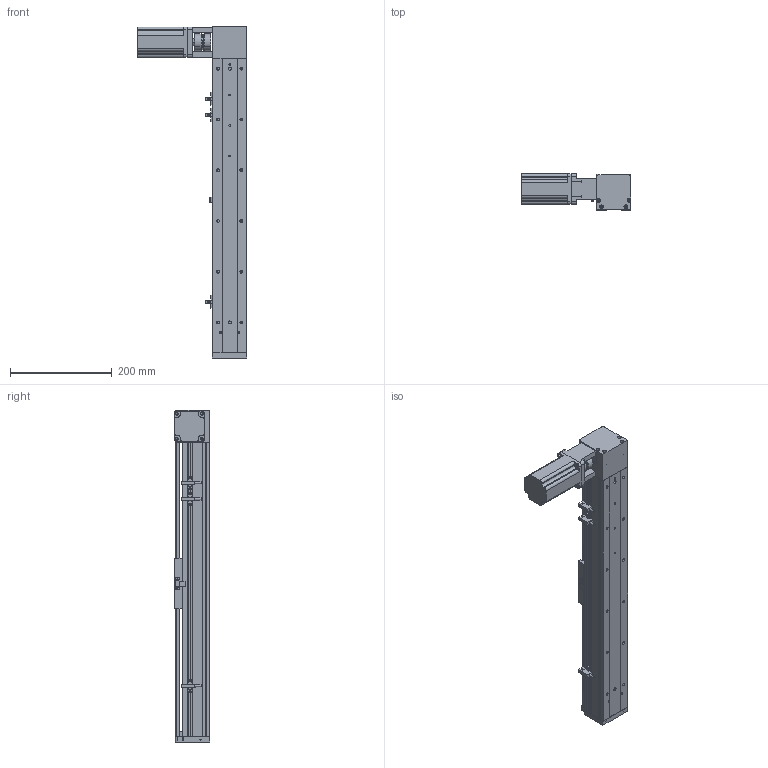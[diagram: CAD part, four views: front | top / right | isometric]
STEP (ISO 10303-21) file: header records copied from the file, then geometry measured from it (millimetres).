
FILE_DESCRIPTION (( 'STEP AP203' ), '1' );
FILE_NAME ('ML68-S400-BL.STEP', '2016-06-01T03:05:58', ( '微软用户' ), ( '微软中国' ), 'SwSTEP 2.0', 'SolidWorks 2014', '' );
FILE_SCHEMA (( 'CONFIG_CONTROL_DESIGN' ));
Length unit declared in the file: millimetre
Products named in the file (12): 換覜ん; ML68-S400-BL; 三协电机MH201N2_預設; 联轴器（CS34X32-8X14）_預設; ML68-BL傷啣; MS68-TS0204鎮湛嘐隅釱_蕼偞; 60換覜結え; ML68-奻裔^ML68-S400-BL; ML68-菁釱^ML68-S400-BL; ML68雄赽釱; ML68傷啣; ML68滅鳥啣盓傅輸
Assembly tree (13 placements, depth 2):
  ML68-S400-BL
    ML68-BL傷啣
    60換覜結え
    ML68-菁釱^ML68-S400-BL
    ML68傷啣
    換覜ん  x3
    三协电机MH201N2_預設
    联轴器（CS34X32-8X14）_預設
    MS68-TS0204鎮湛嘐隅釱_蕼偞
    ML68-奻裔^ML68-S400-BL
    ML68雄赽釱
    ML68滅鳥啣盓傅輸
Bounding box: 216.5 x 70.5 x 654 mm (x, y, z)
Volume: 1425654 mm3; surface area: 474497.8 mm2
Topology: 14 solids, 14 shells, 875 faces, 2369 edges, 1499 vertices
Faces by surface type: cylinder 403, plane 360, cone 100, bspline 12
Entity records: 27793 total; most frequent: CARTESIAN_POINT 5547, DIRECTION 4511, ORIENTED_EDGE 4254, EDGE_CURVE 2127, AXIS2_PLACEMENT_3D 1649, VERTEX_POINT 1387, VECTOR 1213, LINE 1213
